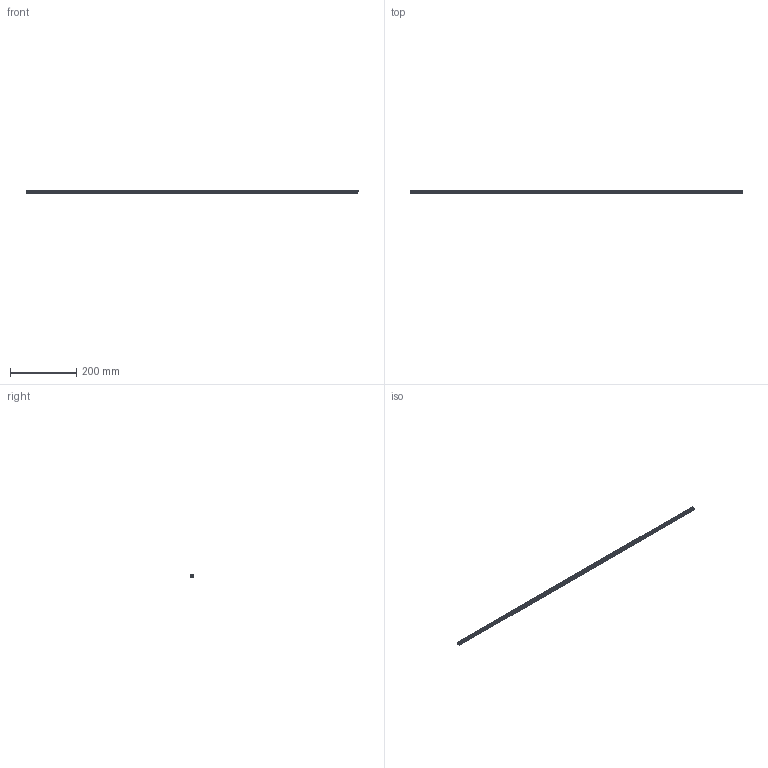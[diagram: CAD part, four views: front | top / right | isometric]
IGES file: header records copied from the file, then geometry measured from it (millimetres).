
Start section: SolidWorks IGES file using analytic representation for surfaces
Global section: file name: C:\Users\admin\Desktop\IGES\J3MPE.igs; native system: SolidWorks 2014; preprocessor: SolidWorks 2014; author: admin_pc; date: 170524.165510; units: millimetre
Bounding box: 1000 x 10.35 x 7.23 mm (x, y, z)
Surface area: 54956.1 mm2 (no closed solid volume)
Topology: 0 solids, 0 shells, 49 faces, 428 edges, 428 vertices
Faces by surface type: revolution 25, bspline 24
